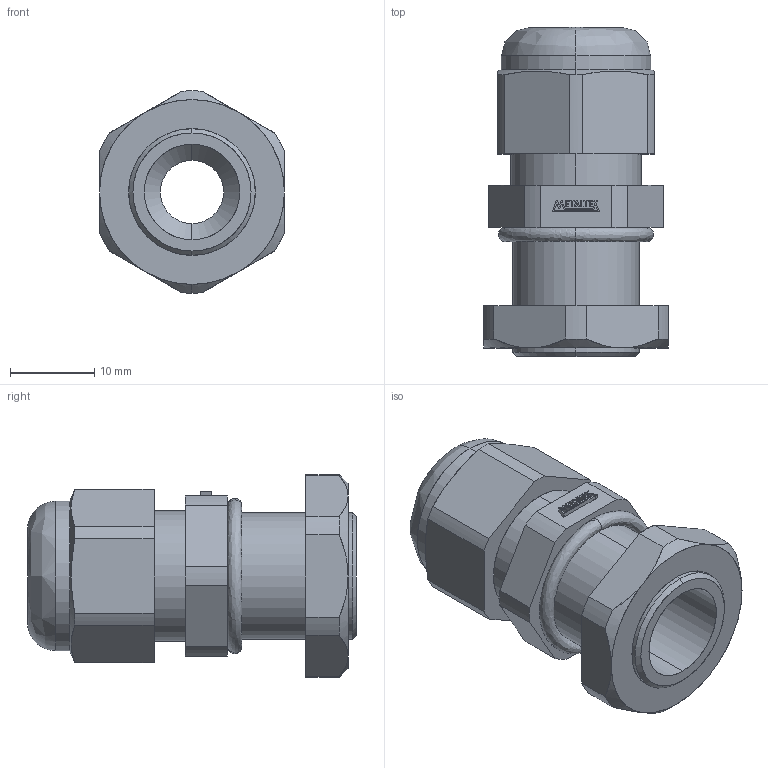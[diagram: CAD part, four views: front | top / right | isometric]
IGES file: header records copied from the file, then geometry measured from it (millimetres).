
Start section: SolidWorks IGES file using analytic representation for surfaces
Global section: file name: D:\X - Arquivos\PROEX\Empresas\P11 - METALTEX\01 - Produtos\IGES\Terceira remessa\Etapa 2\CH-PG9L.IGS; native system: SolidWorks 2012; preprocessor: SolidWorks 2012; author: Usuario; date: 180207.123959; units: millimetre
Bounding box: 21.9 x 39 x 24 mm (x, y, z)
Surface area: 4684 mm2 (no closed solid volume)
Topology: 0 solids, 0 shells, 174 faces, 1306 edges, 1306 vertices
Faces by surface type: bspline 125, revolution 49
